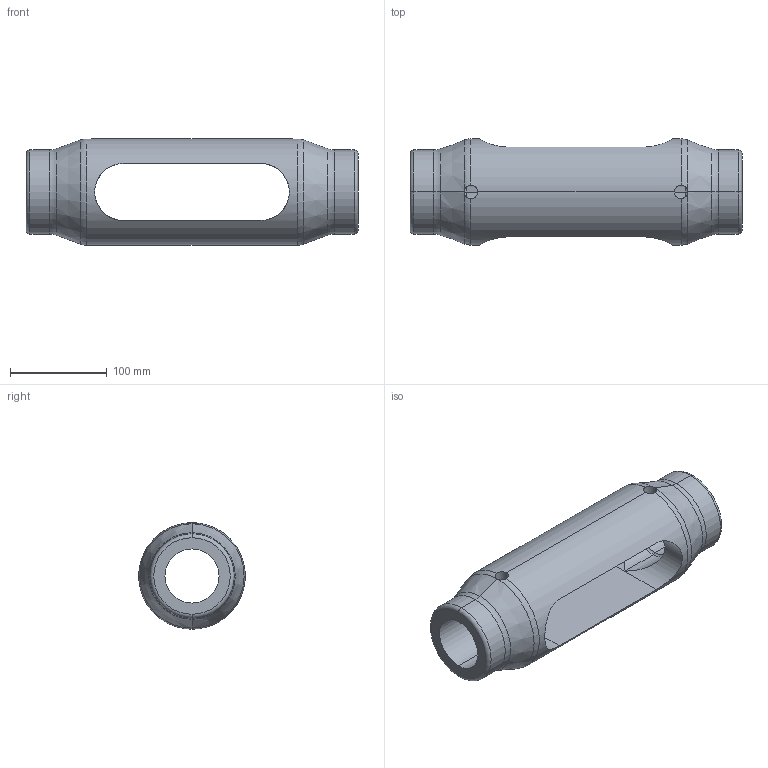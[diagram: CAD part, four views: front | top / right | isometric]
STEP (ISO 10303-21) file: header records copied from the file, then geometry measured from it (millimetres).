
FILE_DESCRIPTION (( 'STEP AP203' ), '1' );
FILE_NAME ('Kreuzmuffe M56.STEP', '2018-03-14T05:22:04', ( 'install' ), ( 'Hewlett-Packard Company' ), 'SwSTEP 2.0', 'SolidWorks 2017', '' );
FILE_SCHEMA (( 'CONFIG_CONTROL_DESIGN' ));
Length unit declared in the file: millimetre
Products named in the file (1): Kreuzmuffe M56
Bounding box: 343 x 109.99 x 110 mm (x, y, z)
Volume: 1387447.4 mm3; surface area: 165269 mm2
Topology: 1 solids, 1 shells, 46 faces, 112 edges, 62 vertices
Faces by surface type: cylinder 22, torus 16, cone 4, plane 4
Entity records: 1936 total; most frequent: CARTESIAN_POINT 798, DIRECTION 228, ORIENTED_EDGE 224, EDGE_CURVE 112, AXIS2_PLACEMENT_3D 97, VERTEX_POINT 62, CIRCLE 50, EDGE_LOOP 50
